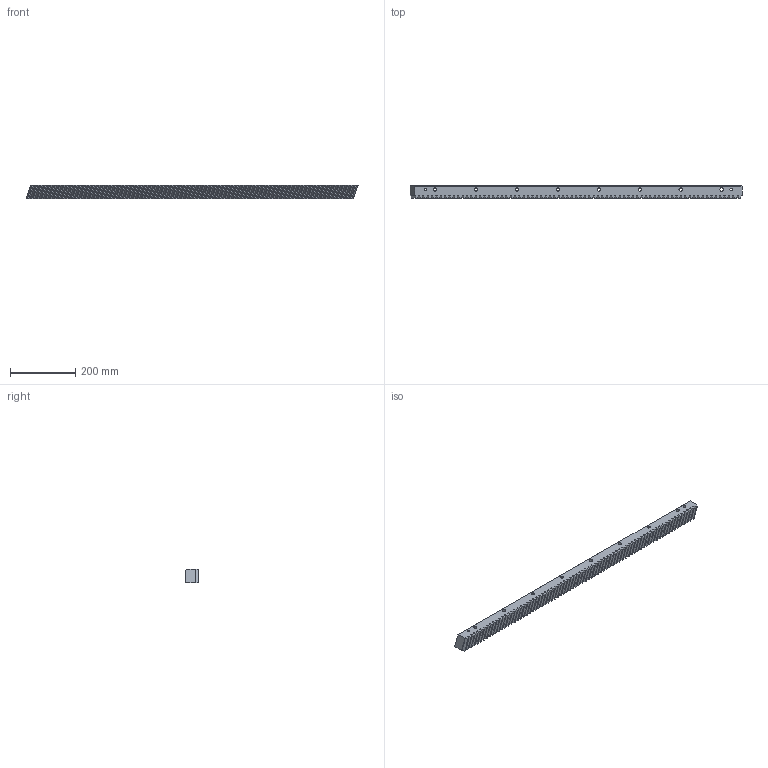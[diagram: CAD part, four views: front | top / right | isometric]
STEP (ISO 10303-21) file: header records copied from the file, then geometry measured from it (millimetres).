
FILE_DESCRIPTION(/* description */ (''),/* implementation_level */ '2;1');
FILE_NAME(/* name */ 'BL-1HR29R040100H.ipt',/* time_stamp */ '2019-06-18T14:27:08+02:00',/* author */ ('VĂ©gh MĂˇtĂ©'),/* organization */ ('Bearing Kft'),/* preprocessor_version */ 'ST-DEVELOPER v16.7',/* originating_system */ 'DEX',/* authorisation */ $);
FILE_SCHEMA (('AUTOMOTIVE_DESIGN {1 0 10303 214 3 1 1}'));
Length unit declared in the file: millimetre
Products named in the file (1): BL-1HR29R040100H.ipt
Bounding box: 1014.19 x 39 x 40 mm (x, y, z)
Volume: 1349151.7 mm3; surface area: 201969.1 mm2
Topology: 1 solids, 1 shells, 830 faces, 2286 edges, 1524 vertices
Faces by surface type: plane 583, bspline 227, cylinder 20
Full cylindrical faces by diameter (mm): 7.7 x2, 10 x8, 15 x8
Entity records: 37520 total; most frequent: CARTESIAN_POINT 11668, ORIENTED_EDGE 4516, DIRECTION 3352, EDGE_CURVE 2258, LINE 1764, VECTOR 1764, VERTEX_POINT 1524, EDGE_LOOP 944
